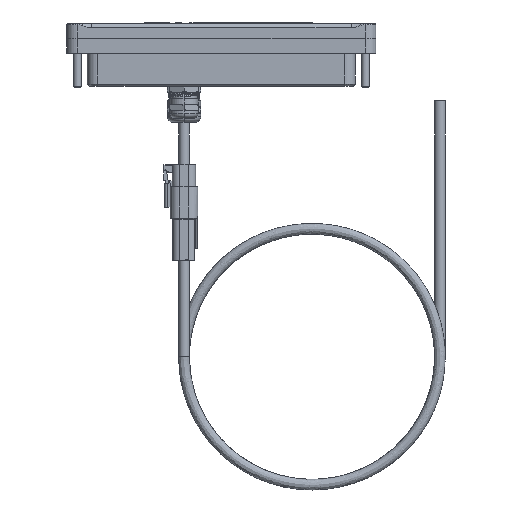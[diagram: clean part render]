
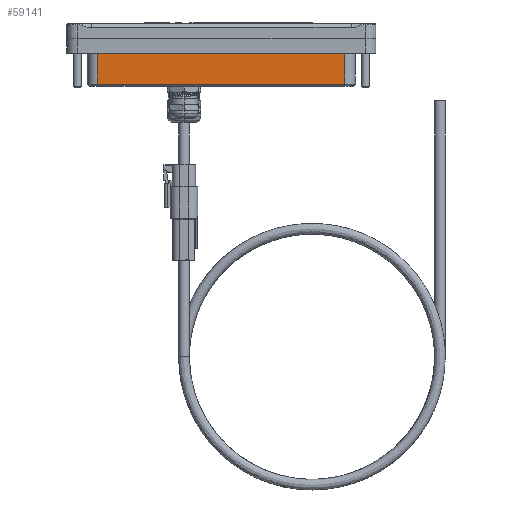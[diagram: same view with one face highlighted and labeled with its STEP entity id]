
A CAD part, left-side view. The second image highlights one B-rep face of the part: STEP entity #59141.
In plain terms, the highlighted planar face has unit normal (-1, 0, 0).
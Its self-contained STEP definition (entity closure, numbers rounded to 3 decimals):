
#954 = CARTESIAN_POINT ( 'NONE',  ( -2.25, -2.895, -1.075 ) ) ;
#7261 = CARTESIAN_POINT ( 'NONE',  ( -2.25, -2.895, 9.301 ) ) ;
#8148 = DIRECTION ( 'NONE',  ( -1., 0., 0. ) ) ;
#12384 = ORIENTED_EDGE ( 'NONE', *, *, #87940, .T. ) ;
#13897 = CARTESIAN_POINT ( 'NONE',  ( -2.25, 2.895, -0.35 ) ) ;
#14848 = LINE ( 'NONE', #42918, #36585 ) ;
#17073 = AXIS2_PLACEMENT_3D ( 'NONE', #68739, #8148, #38786 ) ;
#20984 = VERTEX_POINT ( 'NONE', #63390 ) ;
#28425 = DIRECTION ( 'NONE',  ( 0., 1., 0. ) ) ;
#29193 = ORIENTED_EDGE ( 'NONE', *, *, #42392, .F. ) ;
#33473 = LINE ( 'NONE', #954, #78111 ) ;
#33869 = DIRECTION ( 'NONE',  ( 0., 0., -1. ) ) ;
#34453 = VECTOR ( 'NONE', #52668, 39.37 ) ;
#36585 = VECTOR ( 'NONE', #33869, 39.37 ) ;
#36693 = EDGE_CURVE ( 'NONE', #77384, #20984, #82619, .T. ) ;
#36872 = VERTEX_POINT ( 'NONE', #91680 ) ;
#38786 = DIRECTION ( 'NONE',  ( 0., 0., 1. ) ) ;
#42392 = EDGE_CURVE ( 'NONE', #77384, #36872, #52470, .T. ) ;
#42918 = CARTESIAN_POINT ( 'NONE',  ( -2.25, 2.895, 9.301 ) ) ;
#49473 = VERTEX_POINT ( 'NONE', #59897 ) ;
#49692 = EDGE_CURVE ( 'NONE', #49473, #36872, #33473, .T. ) ;
#52470 = LINE ( 'NONE', #7261, #34453 ) ;
#52668 = DIRECTION ( 'NONE',  ( 0., 0., -1. ) ) ;
#59141 = ADVANCED_FACE ( 'NONE', ( #60166 ), #91362, .T. ) ;
#59897 = CARTESIAN_POINT ( 'NONE',  ( -2.25, 2.895, -1.075 ) ) ;
#60166 = FACE_OUTER_BOUND ( 'NONE', #93808, .T. ) ;
#63390 = CARTESIAN_POINT ( 'NONE',  ( -2.25, 2.895, -0.35 ) ) ;
#66943 = VECTOR ( 'NONE', #28425, 39.37 ) ;
#68739 = CARTESIAN_POINT ( 'NONE',  ( -2.25, 2.895, 9.301 ) ) ;
#76708 = ORIENTED_EDGE ( 'NONE', *, *, #49692, .T. ) ;
#77384 = VERTEX_POINT ( 'NONE', #93212 ) ;
#78111 = VECTOR ( 'NONE', #78711, 39.37 ) ;
#78711 = DIRECTION ( 'NONE',  ( 0., -1., 0. ) ) ;
#82619 = LINE ( 'NONE', #13897, #66943 ) ;
#87940 = EDGE_CURVE ( 'NONE', #20984, #49473, #14848, .T. ) ;
#91362 = PLANE ( 'NONE',  #17073 ) ;
#91680 = CARTESIAN_POINT ( 'NONE',  ( -2.25, -2.895, -1.075 ) ) ;
#93212 = CARTESIAN_POINT ( 'NONE',  ( -2.25, -2.895, -0.35 ) ) ;
#93808 = EDGE_LOOP ( 'NONE', ( #12384, #76708, #29193, #98651 ) ) ;
#98651 = ORIENTED_EDGE ( 'NONE', *, *, #36693, .T. ) ;
